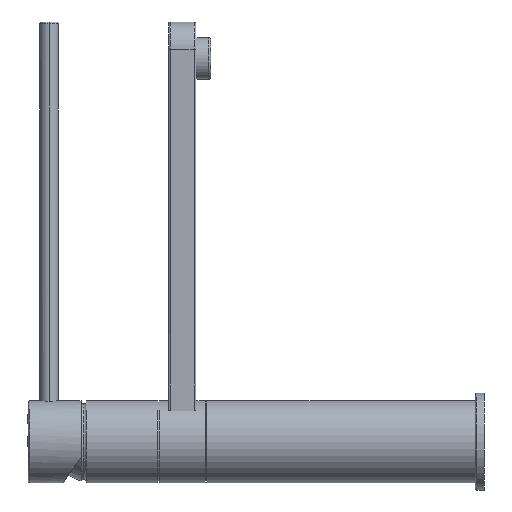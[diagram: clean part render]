
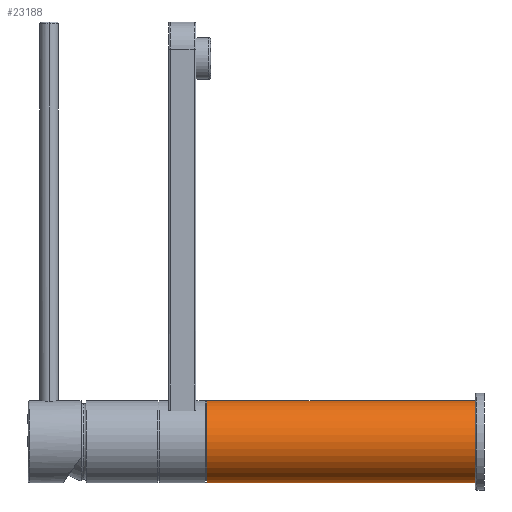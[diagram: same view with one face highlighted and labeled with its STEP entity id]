
A CAD part, left-side view. The second image highlights one B-rep face of the part: STEP entity #23188.
In plain terms, the highlighted cylindrical face has radius 22.5 mm (diameter 45 mm), a partial arc.
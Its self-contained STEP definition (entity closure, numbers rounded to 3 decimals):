
#922 = VECTOR ( 'NONE', #19566, 1000. ) ;
#1316 = VERTEX_POINT ( 'NONE', #7218 ) ;
#2657 = VERTEX_POINT ( 'NONE', #10614 ) ;
#3066 = AXIS2_PLACEMENT_3D ( 'NONE', #7506, #15275, #28166 ) ;
#3247 = DIRECTION ( 'NONE',  ( 0., 1., 0. ) ) ;
#4157 = ORIENTED_EDGE ( 'NONE', *, *, #21305, .F. ) ;
#4343 = EDGE_CURVE ( 'NONE', #2657, #29392, #14116, .T. ) ;
#5312 = CARTESIAN_POINT ( 'NONE',  ( 0., 152., 0. ) ) ;
#6110 = CARTESIAN_POINT ( 'NONE',  ( 0., 5., 0. ) ) ;
#6790 = LINE ( 'NONE', #16999, #922 ) ;
#7218 = CARTESIAN_POINT ( 'NONE',  ( 0., 5., -22.5 ) ) ;
#7506 = CARTESIAN_POINT ( 'NONE',  ( 0., 100.56, 0. ) ) ;
#9284 = ORIENTED_EDGE ( 'NONE', *, *, #4343, .F. ) ;
#10140 = CARTESIAN_POINT ( 'NONE',  ( 0., 152., 22.5 ) ) ;
#10614 = CARTESIAN_POINT ( 'NONE',  ( 0., 152., -22.5 ) ) ;
#11478 = DIRECTION ( 'NONE',  ( 0., 0., 1. ) ) ;
#12566 = VECTOR ( 'NONE', #20701, 1000. ) ;
#14053 = ORIENTED_EDGE ( 'NONE', *, *, #19390, .T. ) ;
#14116 = CIRCLE ( 'NONE', #31636, 22.5 ) ;
#15275 = DIRECTION ( 'NONE',  ( 0., 1., 0. ) ) ;
#16662 = DIRECTION ( 'NONE',  ( 0., 1., 0. ) ) ;
#16999 = CARTESIAN_POINT ( 'NONE',  ( 0., 100.56, -22.5 ) ) ;
#19390 = EDGE_CURVE ( 'NONE', #1316, #23908, #29520, .T. ) ;
#19566 = DIRECTION ( 'NONE',  ( 0., 1., 0. ) ) ;
#20262 = FACE_OUTER_BOUND ( 'NONE', #22700, .T. ) ;
#20701 = DIRECTION ( 'NONE',  ( 0., 1., 0. ) ) ;
#21305 = EDGE_CURVE ( 'NONE', #1316, #2657, #6790, .T. ) ;
#22498 = CYLINDRICAL_SURFACE ( 'NONE', #3066, 22.5 ) ;
#22700 = EDGE_LOOP ( 'NONE', ( #4157, #14053, #28321, #9284 ) ) ;
#23188 = ADVANCED_FACE ( 'NONE', ( #20262 ), #22498, .T. ) ;
#23908 = VERTEX_POINT ( 'NONE', #24972 ) ;
#24972 = CARTESIAN_POINT ( 'NONE',  ( 0., 5., 22.5 ) ) ;
#25349 = CARTESIAN_POINT ( 'NONE',  ( 0., 100.56, 22.5 ) ) ;
#27537 = DIRECTION ( 'NONE',  ( 0., 0., 1. ) ) ;
#27906 = LINE ( 'NONE', #25349, #12566 ) ;
#28166 = DIRECTION ( 'NONE',  ( 0., 0., 1. ) ) ;
#28321 = ORIENTED_EDGE ( 'NONE', *, *, #32581, .T. ) ;
#29392 = VERTEX_POINT ( 'NONE', #10140 ) ;
#29520 = CIRCLE ( 'NONE', #31707, 22.5 ) ;
#31636 = AXIS2_PLACEMENT_3D ( 'NONE', #5312, #3247, #27537 ) ;
#31707 = AXIS2_PLACEMENT_3D ( 'NONE', #6110, #16662, #11478 ) ;
#32581 = EDGE_CURVE ( 'NONE', #23908, #29392, #27906, .T. ) ;
